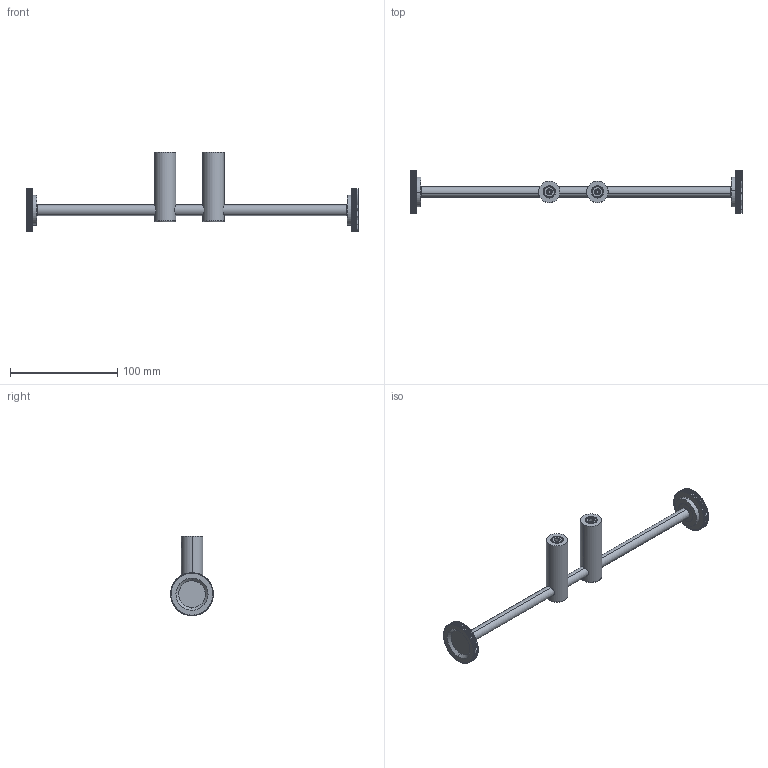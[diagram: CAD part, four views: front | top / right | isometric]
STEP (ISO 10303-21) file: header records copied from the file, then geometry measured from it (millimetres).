
FILE_DESCRIPTION (( 'STEP AP203' ), '1' );
FILE_NAME ('CWO10.STEP', '2020-12-15T14:15:10', ( '' ), ( '' ), 'SwSTEP 2.0', 'SolidWorks 2021', '' );
FILE_SCHEMA (( 'CONFIG_CONTROL_DESIGN' ));
Length unit declared in the file: millimetre
Products named in the file (8): C24.0764.00.0; C11.14.0008; C25.2366.00.0; CWO10; C24.2370.00.0; C11.14.0019; C24.1463.00.1; C24.2319.00.0
Assembly tree (13 placements, depth 2):
  CWO10
    C25.2366.00.0
    C11.14.0019  x2
    C24.2319.00.0  x2
    C24.0764.00.0  x2
    C11.14.0008  x2
    C24.2370.00.0  x2
    C24.1463.00.1  x2
Bounding box: 310 x 40 x 74 mm (x, y, z)
Volume: 71567 mm3; surface area: 35996.8 mm2
Topology: 13 solids, 13 shells, 902 faces, 2488 edges, 1622 vertices
Faces by surface type: plane 516, cylinder 298, cone 84, torus 4
Entity records: 16057 total; most frequent: CARTESIAN_POINT 2989, DIRECTION 2549, ORIENTED_EDGE 2534, EDGE_CURVE 1267, LINE 901, VECTOR 901, VERTEX_POINT 826, AXIS2_PLACEMENT_3D 824
